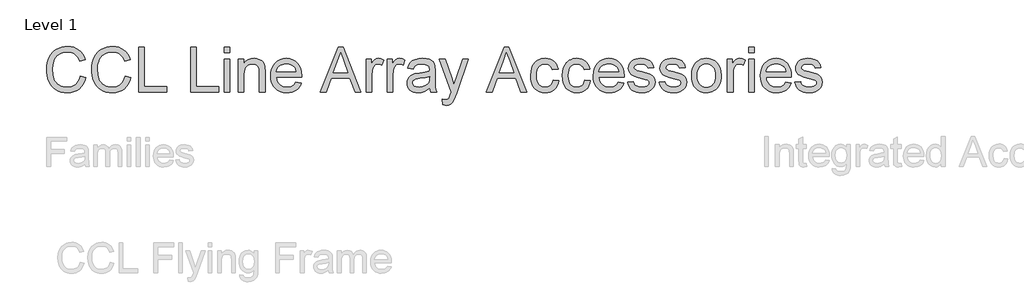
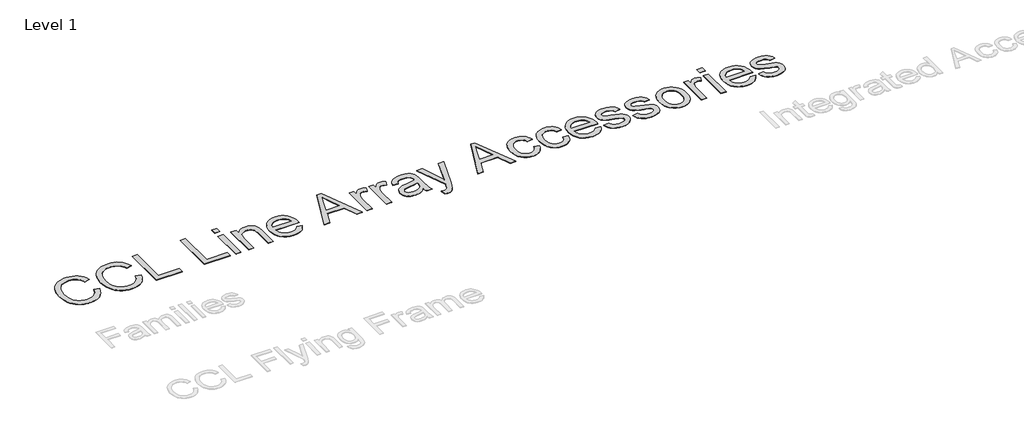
# One storey, part 8 of 31: 1 proxy.
"""IFC4 building model written with IfcOpenShell, lengths in millimetres."""

from ifc_helpers import new_model, si_unit, origin, origin_with_axes, place, context, project, spatial, polyline, outline, extrude, element, save

model = new_model("IFC4")

# Units and contexts
model_context = context("Model", 3, world=origin())
ifc_project = project(units=[si_unit("LENGTHUNIT", "METRE", prefix="MILLI")], contexts=[model_context])

# Site, building, storey
site = spatial("IfcSite", under=ifc_project)
building = spatial("IfcBuilding", under=site)
storey = spatial("IfcBuildingStorey", under=building, Name="Level 1", Elevation=0.0)

# Proxy
placement = place(None, origin())
element("IfcBuildingElementProxy", 1, Name="600mm Arial", ObjectType="600mm Arial", at=placement, inside=storey, context=model_context, shape_type="SweptSolid", body=[
    extrude(outline(polyline([(-20609.8448639, -12457.1212893), (-20534.5026313, -12476.5454586), (-20549.4110491, -12523.3998292), (-20569.2674798, -12564.3404968), (-20594.0719234, -12599.3674613), (-20623.8243797, -12628.4807226), (-20657.8534643, -12651.3675813), (-20695.4877924, -12667.7153374), (-20736.727364, -12677.5239911), (-20781.5721793, -12680.7935424), (-20827.5160419, -12678.3195359), (-20868.9625472, -12670.8975167), (-20905.9116951, -12658.5274846), (-20938.3634856, -12641.2094397), (-20966.7639756, -12619.2008993), (-20991.5592221, -12592.7593809), (-21012.749225, -12561.8848845), (-21030.3339844, -12526.57741), (-21044.1433548, -12488.3636677), (-21054.0071908, -12448.770368), (-21059.9254924, -12407.7975108), (-21061.8982596, -12365.4450961), (-21059.667975, -12320.0024726), (-21052.9771212, -12277.5580874), (-21041.8256982, -12238.1119405), (-21026.213706, -12201.6640318), (-21006.4906326, -12168.8167682), (-20983.0059657, -12140.1725563), (-20955.7597054, -12115.7313963), (-20924.7518518, -12095.493288), (-20891.0354669, -12079.6237785), (-20855.6636131, -12068.2884145), (-20818.6362903, -12061.4871961), (-20779.9534985, -12059.2201233), (-20736.8607213, -12062.1539822), (-20697.3455965, -12070.955559), (-20661.4081241, -12085.6248535), (-20629.0483041, -12106.1618659), (-20600.7995653, -12132.0239702), (-20577.1953368, -12162.6685404), (-20558.2356185, -12198.0955765), (-20543.9204104, -12238.3050786), (-20619.262643, -12256.2577199), (-20631.1268373, -12226.6294237), (-20645.3822646, -12201.3145439), (-20662.0289249, -12180.3130805), (-20681.0668182, -12163.6250335), (-20702.606309, -12150.9101121), (-20726.757762, -12141.8280253), (-20753.5211771, -12136.3787733), (-20782.8965544, -12134.5623559), (-20816.6957127, -12136.5765098), (-20847.6069974, -12142.6189716), (-20875.6304084, -12152.6897412), (-20900.7659457, -12166.7888187), (-20922.6963111, -12184.2816076), (-20941.1042065, -12204.5335114), (-20955.9896317, -12227.5445302), (-20967.3525868, -12253.314664), (-20981.7551669, -12308.460175), (-20986.556027, -12365.2979433), (-20980.8722501, -12434.9012168), (-20973.7675291, -12466.1711864), (-20963.8209197, -12495.0867112), (-20950.8714734, -12521.0729756), (-20934.758242, -12543.5551641), (-20915.4812255, -12562.5332765), (-20893.0404238, -12578.0073129), (-20868.5256873, -12590.0140615), (-20843.0268665, -12598.5903105), (-20816.5439614, -12603.7360599), (-20789.076972, -12605.4513097), (-20756.3216788, -12603.1152591), (-20726.1875449, -12596.1071071), (-20698.6745702, -12584.4268537), (-20673.7827547, -12568.074499), (-20652.1007096, -12547.1236194), (-20634.2170461, -12521.6477912), (-20620.1317642, -12491.6470145), (-20609.8448639, -12457.1212893)])), origin_with_axes(), (0.0, 0.0, 1.0), 5.0),
    extrude(outline(polyline([(-20007.107003, -12457.1212893), (-19931.7647704, -12476.5454586), (-19946.6731882, -12523.3998292), (-19966.5296189, -12564.3404968), (-19991.3340625, -12599.3674613), (-20021.0865188, -12628.4807226), (-20055.1156034, -12651.3675813), (-20092.7499315, -12667.7153374), (-20133.9895031, -12677.5239911), (-20178.8343184, -12680.7935424), (-20224.778181, -12678.3195359), (-20266.2246863, -12670.8975167), (-20303.1738342, -12658.5274846), (-20335.6256247, -12641.2094397), (-20364.0261147, -12619.2008993), (-20388.8213612, -12592.7593809), (-20410.0113641, -12561.8848845), (-20427.5961235, -12526.57741), (-20441.4054939, -12488.3636677), (-20451.2693299, -12448.770368), (-20457.1876315, -12407.7975108), (-20459.1603987, -12365.4450961), (-20456.9301141, -12320.0024726), (-20450.2392603, -12277.5580874), (-20439.0878373, -12238.1119405), (-20423.4758451, -12201.6640318), (-20403.7527717, -12168.8167682), (-20380.2681048, -12140.1725563), (-20353.0218445, -12115.7313963), (-20322.0139909, -12095.493288), (-20288.297606, -12079.6237785), (-20252.9257522, -12068.2884145), (-20215.8984294, -12061.4871961), (-20177.2156376, -12059.2201233), (-20134.1228604, -12062.1539822), (-20094.6077356, -12070.955559), (-20058.6702632, -12085.6248535), (-20026.3104432, -12106.1618659), (-19998.0617044, -12132.0239702), (-19974.4574759, -12162.6685404), (-19955.4977576, -12198.0955765), (-19941.1825495, -12238.3050786), (-20016.5247821, -12256.2577199), (-20028.3889764, -12226.6294237), (-20042.6444037, -12201.3145439), (-20059.291064, -12180.3130805), (-20078.3289573, -12163.6250335), (-20099.8684481, -12150.9101121), (-20124.0199011, -12141.8280253), (-20150.7833162, -12136.3787733), (-20180.1586935, -12134.5623559), (-20213.9578518, -12136.5765098), (-20244.8691365, -12142.6189716), (-20272.8925475, -12152.6897412), (-20298.0280848, -12166.7888187), (-20319.9584502, -12184.2816076), (-20338.3663456, -12204.5335114), (-20353.2517708, -12227.5445302), (-20364.6147259, -12253.314664), (-20379.017306, -12308.460175), (-20383.8181661, -12365.2979433), (-20378.1343892, -12434.9012168), (-20371.0296682, -12466.1711864), (-20361.0830588, -12495.0867112), (-20348.1336125, -12521.0729756), (-20332.0203811, -12543.5551641), (-20312.7433646, -12562.5332765), (-20290.3025629, -12578.0073129), (-20265.7878264, -12590.0140615), (-20240.2890056, -12598.5903105), (-20213.8061005, -12603.7360599), (-20186.3391111, -12605.4513097), (-20153.5838179, -12603.1152591), (-20123.449684, -12596.1071071), (-20095.9367093, -12584.4268537), (-20071.0448938, -12568.074499), (-20049.3628487, -12547.1236194), (-20031.4791852, -12521.6477912), (-20017.3939033, -12491.6470145), (-20007.107003, -12457.1212893)])), origin_with_axes(), (0.0, 0.0, 1.0), 5.0),
    extrude(outline(polyline([(-19828.1692006, -12671.3757633), (-19828.1692006, -12068.6379024), (-19752.8269679, -12068.6379024), (-19752.8269679, -12596.0335307), (-19451.4580375, -12596.0335307), (-19451.4580375, -12671.3757633), (-19828.1692006, -12671.3757633)])), origin_with_axes(), (0.0, 0.0, 1.0), 5.0),
    extrude(outline(polyline([(-19131.2535489, -12671.3757633), (-19131.2535489, -12068.6379024), (-19055.9113163, -12068.6379024), (-19055.9113163, -12596.0335307), (-18754.5423858, -12596.0335307), (-18754.5423858, -12671.3757633), (-19131.2535489, -12671.3757633)])), origin_with_axes(), (0.0, 0.0, 1.0), 5.0),
    extrude(outline(polyline([(-18679.2001532, -12143.980135), (-18679.2001532, -12068.6379024), (-18603.8579206, -12068.6379024), (-18603.8579206, -12143.980135), (-18679.2001532, -12143.980135)])), origin_with_axes(), (0.0, 0.0, 1.0), 5.0),
    extrude(outline(polyline([(-18679.2001532, -12671.3757633), (-18679.2001532, -12228.7401467), (-18603.8579206, -12228.7401467), (-18603.8579206, -12671.3757633), (-18679.2001532, -12671.3757633)])), origin_with_axes(), (0.0, 0.0, 1.0), 5.0),
    extrude(outline(polyline([(-18490.8445717, -12671.3757633), (-18490.8445717, -12228.7401467), (-18415.5023391, -12228.7401467), (-18415.5023391, -12290.5443219), (-18389.3275351, -12259.3847169), (-18357.8920186, -12237.1278562), (-18321.1957896, -12223.7737398), (-18279.2388481, -12219.3223676), (-18242.1011606, -12222.9092171), (-18208.0904702, -12233.6697654), (-18179.7267684, -12250.2612434), (-18159.5300468, -12271.3408817), (-18145.8264425, -12296.8534981), (-18136.9420923, -12326.7439102), (-18132.9689668, -12399.5845452), (-18132.9689668, -12671.3757633), (-18208.3111994, -12671.3757633), (-18208.3111994, -12409.7380883), (-18210.4817032, -12370.779385), (-18216.9932145, -12343.0778708), (-18229.0045616, -12323.2306371), (-18247.6745729, -12307.8347756), (-18271.6052967, -12297.9571441), (-18299.3987814, -12294.6646002), (-18322.276443, -12296.5132072), (-18343.5262267, -12302.0590283), (-18363.1481326, -12311.3020635), (-18381.1421607, -12324.2423126), (-18396.1747387, -12342.3513038), (-18406.9122945, -12367.1005651), (-18413.3548279, -12398.4900963), (-18415.5023391, -12436.5198976), (-18415.5023391, -12671.3757633), (-18490.8445717, -12671.3757633)])), origin_with_axes(), (0.0, 0.0, 1.0), 5.0),
    extrude(outline(polyline([(-17719.4696042, -12539.5268562), (-17645.5988996, -12548.9446353), (-17656.9250665, -12578.5315448), (-17672.2151619, -12604.6051812), (-17691.4691858, -12627.1655445), (-17714.6871383, -12646.2126348), (-17741.6298959, -12661.3417819), (-17772.0583354, -12672.1483155), (-17805.9724568, -12678.6322356), (-17843.3722602, -12680.7935424), (-17890.1208647, -12677.0641386), (-17931.7743036, -12665.8759275), (-17968.3325769, -12647.2289088), (-17999.7956845, -12621.1230827), (-18025.0967687, -12588.2850161), (-18043.1689718, -12549.441276), (-18054.0122936, -12504.5918622), (-18057.6267342, -12453.7367749), (-18053.9755054, -12401.1572408), (-18043.021819, -12354.8133064), (-18024.7656749, -12314.7049719), (-17999.2070733, -12280.8322372), (-17967.8267391, -12253.9216693), (-17932.1053974, -12234.699835), (-17892.0430481, -12223.1667345), (-17847.6396913, -12219.3223676), (-17804.6664758, -12223.1575374), (-17765.8043415, -12234.6630468), (-17731.0532885, -12253.8388958), (-17700.4133168, -12280.6850844), (-17675.4019397, -12314.4842427), (-17657.5366703, -12354.5190008), (-17646.8175087, -12400.7893588), (-17643.2444548, -12453.2953165), (-17643.6859132, -12473.6024027), (-17982.2845016, -12473.6024027), (-17977.9205014, -12503.6675587), (-17969.2430848, -12529.9987125), (-17956.2522519, -12552.5958641), (-17938.9480025, -12571.4590134), (-17918.28683, -12586.330643), (-17895.2252274, -12596.9532357), (-17869.7631948, -12603.3267912), (-17841.9007322, -12605.4513097), (-17801.8015947, -12601.5149724), (-17768.0300276, -12589.7059604), (-17740.5860307, -12569.2885096), (-17719.4696042, -12539.5268562)]), holes=[polyline([(-17982.2845016, -12398.2601701), (-17718.5866874, -12398.2601701), (-17728.7770187, -12358.4553382), (-17737.5418072, -12342.8019593), (-17748.753011, -12329.9812718), (-17769.2992204, -12314.530228), (-17792.6781212, -12303.4937681), (-17818.8897134, -12296.8718922), (-17847.9339969, -12294.6646002), (-17874.4260991, -12296.4258353), (-17898.7201063, -12301.7095404), (-17920.8160187, -12310.5157157), (-17940.7138361, -12322.8443611), (-17957.4110802, -12338.1252594), (-17969.9052724, -12355.7881937), (-17978.1964129, -12375.8331639), (-17982.2845016, -12398.2601701)])]), origin_with_axes(), (0.0, 0.0, 1.0), 5.0),
    extrude(outline(polyline([(-17393.0846981, -12671.3757633), (-17152.4898732, -12068.6379024), (-17088.3312533, -12068.6379024), (-16847.8835812, -12671.3757633), (-16927.493245, -12671.3757633), (-16996.3607545, -12483.0201818), (-17244.7546776, -12483.0201818), (-17313.6221871, -12671.3757633), (-17393.0846981, -12671.3757633)]), holes=[polyline([(-17217.0899516, -12407.6779491), (-17023.8783277, -12407.6779491), (-17078.324863, -12259.4950815), (-17120.557716, -12143.980135), (-17158.0816796, -12246.5456353), (-17217.0899516, -12407.6779491)])]), origin_with_axes(), (0.0, 0.0, 1.0), 5.0),
    extrude(outline(polyline([(-16776.8087798, -12671.3757633), (-16776.8087798, -12228.7401467), (-16710.8843262, -12228.7401467), (-16710.8843262, -12294.2231418), (-16686.5305381, -12256.2577199), (-16664.0897364, -12233.8904946), (-16641.5753583, -12222.9643994), (-16617.0008411, -12219.3223676), (-16579.4768775, -12225.1349031), (-16541.3643028, -12242.5725097), (-16566.5274313, -12310.115644), (-16593.014935, -12298.5273612), (-16619.5024386, -12294.6646002), (-16641.9984226, -12298.3802084), (-16662.1031737, -12309.5270328), (-16678.3451637, -12327.258945), (-16689.2528649, -12350.7298163), (-16698.4131266, -12392.8155165), (-16701.4665471, -12438.7271895), (-16701.4665471, -12671.3757633), (-16776.8087798, -12671.3757633)])), origin_with_axes(), (0.0, 0.0, 1.0), 5.0),
    extrude(outline(polyline([(-16494.2754075, -12671.3757633), (-16494.2754075, -12228.7401467), (-16428.3509539, -12228.7401467), (-16428.3509539, -12294.2231418), (-16403.9971658, -12256.2577199), (-16381.5563641, -12233.8904946), (-16359.041986, -12222.9643994), (-16334.4674688, -12219.3223676), (-16296.9435052, -12225.1349031), (-16258.8309305, -12242.5725097), (-16283.994059, -12310.115644), (-16310.4815627, -12298.5273612), (-16336.9690663, -12294.6646002), (-16359.4650503, -12298.3802084), (-16379.5698014, -12309.5270328), (-16395.8117915, -12327.258945), (-16406.7194926, -12350.7298163), (-16415.8797543, -12392.8155165), (-16418.9331748, -12438.7271895), (-16418.9331748, -12671.3757633), (-16494.2754075, -12671.3757633)])), origin_with_axes(), (0.0, 0.0, 1.0), 5.0),
    extrude(outline(polyline([(-15929.2086629, -12614.8690888), (-15965.2059161, -12645.7343882), (-16002.2700271, -12665.9311098), (-16041.2471245, -12677.0779342), (-16082.9833369, -12680.7935424), (-16116.5295763, -12678.5586592), (-16145.9463403, -12671.8540099), (-16171.233629, -12660.6795943), (-16192.3914422, -12645.0354124), (-16209.0978833, -12625.9147457), (-16221.0310555, -12604.3108756), (-16228.1909589, -12580.2238019), (-16230.5775933, -12553.6535248), (-16226.9723498, -12522.4203434), (-16216.1566191, -12494.0566416), (-16199.4731706, -12469.7764299), (-16178.2647736, -12450.793719), (-16153.3407684, -12436.4463212), (-16125.5104955, -12426.0720489), (-16060.3218059, -12414.7412834), (-15983.2873162, -12402.8219068), (-15929.6501213, -12388.842391), (-15929.2086629, -12372.066972), (-15934.395799, -12338.4425576), (-15940.8797192, -12325.9897521), (-15949.9572074, -12316.4432143), (-15965.6473745, -12306.9150707), (-15984.7588441, -12300.1092538), (-16033.2456911, -12294.6646002), (-16078.1272945, -12298.2882379), (-16109.4708405, -12309.1591508), (-16130.8447844, -12329.2639019), (-16145.8175816, -12360.5890538), (-16221.1598142, -12351.1712747), (-16208.0816093, -12309.9684912), (-16188.5654695, -12277.5948756), (-16160.7903788, -12252.8364174), (-16122.9353215, -12234.4791058), (-16076.6373724, -12223.1115522), (-16023.5336064, -12219.3223676), (-15972.6003442, -12222.6700938), (-15932.2252952, -12232.7132722), (-15901.7830601, -12247.8148281), (-15880.6482395, -12266.3376866), (-15866.6319355, -12289.2383408), (-15857.5452502, -12317.4732839), (-15853.8664303, -12383.3977375), (-15853.8664303, -12477.1340698), (-15850.0404575, -12608.0264837), (-15844.3750748, -12640.3817052), (-15835.0308721, -12671.3757633), (-15910.3731047, -12671.3757633), (-15922.4396342, -12645.1825652), (-15929.2086629, -12614.8690888)]), holes=[polyline([(-15929.2086629, -12464.1846236), (-15979.8292254, -12476.7293996), (-16050.7568741, -12487.2876129), (-16115.5776816, -12499.5012951), (-16132.4450711, -12507.8522164), (-16144.9346648, -12519.3669229), (-16152.6601867, -12533.1624977), (-16155.2353607, -12548.3560241), (-16149.6251603, -12570.7600376), (-16132.794559, -12589.1173492), (-16105.1114389, -12601.3678196), (-16066.9436819, -12605.4513097), (-16026.4766624, -12600.9447553), (-15990.7185325, -12587.425092), (-15961.7294312, -12567.5042819), (-15941.5694979, -12543.7942874), (-15932.6299654, -12519.3669229), (-15929.6501213, -12485.5217793), (-15929.2086629, -12464.1846236)])]), origin_with_axes(), (0.0, 0.0, 1.0), 5.0),
    extrude(outline(polyline([(-15750.2708604, -12840.8957867), (-15759.6886395, -12768.3494572), (-15721.428912, -12774.9713331), (-15701.3057669, -12772.8927999), (-15685.6707821, -12766.6572), (-15673.493888, -12756.7059921), (-15663.7450151, -12743.4806343), (-15643.1436234, -12688.0040295), (-15637.2575115, -12669.7570825), (-15797.3597558, -12228.7401467), (-15718.0443976, -12228.7401467), (-15632.9900804, -12474.6324723), (-15603.4123679, -12572.9305414), (-15573.8346555, -12485.9632377), (-15486.5730463, -12228.7401467), (-15407.8462993, -12228.7401467), (-15561.9152789, -12681.9707647), (-15601.94084, -12780.2688339), (-15622.4318671, -12811.649168), (-15645.645221, -12833.390994), (-15672.574183, -12846.0829228), (-15704.2120346, -12850.3135657), (-15726.1010133, -12847.959121), (-15750.2708604, -12840.8957867)])), origin_with_axes(), (0.0, 0.0, 1.0), 5.0),
    extrude(outline(polyline([(-15170.488836, -12671.3757633), (-14929.8940112, -12068.6379024), (-14865.7353912, -12068.6379024), (-14625.2877192, -12671.3757633), (-14704.8973829, -12671.3757633), (-14773.7648924, -12483.0201818), (-15022.1588156, -12483.0201818), (-15091.0263251, -12671.3757633), (-15170.488836, -12671.3757633)]), holes=[polyline([(-14994.4940895, -12407.6779491), (-14801.2824657, -12407.6779491), (-14855.7290009, -12259.4950815), (-14897.961854, -12143.980135), (-14935.4858175, -12246.5456353), (-14994.4940895, -12407.6779491)])]), origin_with_axes(), (0.0, 0.0, 1.0), 5.0),
    extrude(outline(polyline([(-14271.6795454, -12511.273519), (-14196.3373128, -12520.6912981), (-14204.5318842, -12556.2424944), (-14217.3433747, -12587.7010035), (-14234.7717842, -12615.0668254), (-14256.8171128, -12638.3399601), (-14282.5504584, -12656.9134023), (-14311.0429189, -12670.1801468), (-14342.2944944, -12678.1401935), (-14376.3051848, -12680.7935424), (-14418.5610305, -12677.0917298), (-14456.4482775, -12665.9862921), (-14489.9669258, -12647.4772292), (-14519.1169754, -12621.5645411), (-14542.7120068, -12588.7356716), (-14559.5656007, -12549.4780642), (-14569.6777571, -12503.7917189), (-14573.0484758, -12451.6766358), (-14567.2911226, -12384.6301421), (-14560.0944311, -12354.45922), (-14550.019063, -12326.523181), (-14536.9960403, -12301.3830452), (-14520.9563853, -12279.5998325), (-14501.900098, -12261.1735431), (-14479.8271783, -12246.1041769), (-14455.7355061, -12234.3871353), (-14430.6229614, -12226.0178199), (-14404.4895442, -12220.9962307), (-14377.3352544, -12219.3223676), (-14343.9085766, -12221.6216301), (-14313.6732751, -12228.5194175), (-14286.62935, -12240.0157298), (-14262.7768011, -12256.1105671), (-14242.5202988, -12276.4360474), (-14226.2645131, -12300.6242885), (-14214.0094441, -12328.6752907), (-14205.7550919, -12360.5890538), (-14281.0973245, -12370.0068328), (-14294.7641406, -12337.1365766), (-14316.046114, -12313.5737348), (-14343.7660224, -12299.3918839), (-14376.7466432, -12294.6646002), (-14402.3466316, -12296.9914538), (-14425.4358253, -12303.9720147), (-14446.0142244, -12315.6062828), (-14464.0818289, -12331.8942581), (-14478.7925102, -12353.2130198), (-14489.3001396, -12379.9396467), (-14495.6047173, -12412.074139), (-14497.7062432, -12449.6164966), (-14495.6507026, -12487.7244728), (-14489.4840806, -12520.2314456), (-14479.2063774, -12547.137415), (-14464.8175929, -12568.442381), (-14447.1086733, -12584.6337873), (-14426.8705651, -12596.1990776), (-14404.1032681, -12603.1382517), (-14378.8067824, -12605.4513097), (-14339.7928968, -12599.6755624), (-14322.9209088, -12592.4558783), (-14307.8055573, -12582.3483205), (-14294.8699067, -12569.2425244), (-14284.5370211, -12553.0281254), (-14276.8069007, -12533.7051236), (-14271.6795454, -12511.273519)])), origin_with_axes(), (0.0, 0.0, 1.0), 5.0),
    extrude(outline(polyline([(-13847.879487, -12511.273519), (-13772.5372543, -12520.6912981), (-13780.7318258, -12556.2424944), (-13793.5433163, -12587.7010035), (-13810.9717258, -12615.0668254), (-13833.0170544, -12638.3399601), (-13858.7503999, -12656.9134023), (-13887.2428604, -12670.1801468), (-13918.4944359, -12678.1401935), (-13952.5051264, -12680.7935424), (-13994.7609721, -12677.0917298), (-14032.648219, -12665.9862921), (-14066.1668673, -12647.4772292), (-14095.3169169, -12621.5645411), (-14118.9119484, -12588.7356716), (-14135.7655423, -12549.4780642), (-14145.8776986, -12503.7917189), (-14149.2484174, -12451.6766358), (-14143.4910642, -12384.6301421), (-14136.2943727, -12354.45922), (-14126.2190045, -12326.523181), (-14113.1959819, -12301.3830452), (-14097.1563269, -12279.5998325), (-14078.1000395, -12261.1735431), (-14056.0271198, -12246.1041769), (-14031.9354477, -12234.3871353), (-14006.822903, -12226.0178199), (-13980.6894857, -12220.9962307), (-13953.535196, -12219.3223676), (-13920.1085182, -12221.6216301), (-13889.8732167, -12228.5194175), (-13862.8292915, -12240.0157298), (-13838.9767427, -12256.1105671), (-13818.7202403, -12276.4360474), (-13802.4644547, -12300.6242885), (-13790.2093857, -12328.6752907), (-13781.9550334, -12360.5890538), (-13857.297266, -12370.0068328), (-13870.9640822, -12337.1365766), (-13892.2460556, -12313.5737348), (-13919.9659639, -12299.3918839), (-13952.9465848, -12294.6646002), (-13978.5465731, -12296.9914538), (-14001.6357668, -12303.9720147), (-14022.2141659, -12315.6062828), (-14040.2817704, -12331.8942581), (-14054.9924517, -12353.2130198), (-14065.5000812, -12379.9396467), (-14071.8046589, -12412.074139), (-14073.9061848, -12449.6164966), (-14071.8506441, -12487.7244728), (-14065.6840222, -12520.2314456), (-14055.406319, -12547.137415), (-14041.0175344, -12568.442381), (-14023.3086149, -12584.6337873), (-14003.0705066, -12596.1990776), (-13980.3032096, -12603.1382517), (-13955.006724, -12605.4513097), (-13915.9928384, -12599.6755624), (-13899.1208504, -12592.4558783), (-13884.0054989, -12582.3483205), (-13871.0698482, -12569.2425244), (-13860.7369627, -12553.0281254), (-13853.0068423, -12533.7051236), (-13847.879487, -12511.273519)])), origin_with_axes(), (0.0, 0.0, 1.0), 5.0),
    extrude(outline(polyline([(-13396.7090081, -12539.5268562), (-13322.8383034, -12548.9446353), (-13334.1644704, -12578.5315448), (-13349.4545658, -12604.6051812), (-13368.7085897, -12627.1655445), (-13391.9265421, -12646.2126348), (-13418.8692998, -12661.3417819), (-13449.2977393, -12672.1483155), (-13483.2118607, -12678.6322356), (-13520.611664, -12680.7935424), (-13567.3602686, -12677.0641386), (-13609.0137075, -12665.8759275), (-13645.5719808, -12647.2289088), (-13677.0350884, -12621.1230827), (-13702.3361726, -12588.2850161), (-13720.4083756, -12549.441276), (-13731.2516974, -12504.5918622), (-13734.866138, -12453.7367749), (-13731.2149092, -12401.1572408), (-13720.2612228, -12354.8133064), (-13702.0050788, -12314.7049719), (-13676.4464772, -12280.8322372), (-13645.066143, -12253.9216693), (-13609.3448013, -12234.699835), (-13569.282452, -12223.1667345), (-13524.8790952, -12219.3223676), (-13481.9058796, -12223.1575374), (-13443.0437454, -12234.6630468), (-13408.2926924, -12253.8388958), (-13377.6527207, -12280.6850844), (-13352.6413436, -12314.4842427), (-13334.7760742, -12354.5190008), (-13324.0569125, -12400.7893588), (-13320.4838587, -12453.2953165), (-13320.9253171, -12473.6024027), (-13659.5239054, -12473.6024027), (-13655.1599053, -12503.6675587), (-13646.4824887, -12529.9987125), (-13633.4916557, -12552.5958641), (-13616.1874064, -12571.4590134), (-13595.5262338, -12586.330643), (-13572.4646313, -12596.9532357), (-13547.0025987, -12603.3267912), (-13519.1401361, -12605.4513097), (-13479.0409986, -12601.5149724), (-13445.2694314, -12589.7059604), (-13417.8254346, -12569.2885096), (-13396.7090081, -12539.5268562)]), holes=[polyline([(-13659.5239054, -12398.2601701), (-13395.8260913, -12398.2601701), (-13406.0164225, -12358.4553382), (-13414.7812111, -12342.8019593), (-13425.9924149, -12329.9812718), (-13446.5386243, -12314.530228), (-13469.9175251, -12303.4937681), (-13496.1291173, -12296.8718922), (-13525.1734008, -12294.6646002), (-13551.665503, -12296.4258353), (-13575.9595102, -12301.7095404), (-13598.0554226, -12310.5157157), (-13617.95324, -12322.8443611), (-13634.650484, -12338.1252594), (-13647.1446763, -12355.7881937), (-13655.4358168, -12375.8331639), (-13659.5239054, -12398.2601701)])]), origin_with_axes(), (0.0, 0.0, 1.0), 5.0),
    extrude(outline(polyline([(-13273.3949633, -12539.5268562), (-13198.0527307, -12530.1090771), (-13193.500191, -12547.2891663), (-13186.1701422, -12562.3355399), (-13176.0625844, -12575.2481979), (-13163.1775175, -12586.0271404), (-13147.4781534, -12594.5252145), (-13128.9277038, -12600.5952674), (-13083.2735482, -12605.4513097), (-13038.1712156, -12600.9999376), (-13020.6416385, -12595.4357224), (-13006.4597876, -12587.6458212), (-12987.6978058, -12568.2952282), (-12983.0073104, -12557.4611035), (-12981.4438119, -12545.8544265), (-12983.0165074, -12535.6824894), (-12987.734594, -12526.6509864), (-13006.6069404, -12512.009283), (-13034.8234894, -12502.4443511), (-13084.156465, -12490.5249745), (-13152.9136099, -12470.6409526), (-13197.6112723, -12453.6631985), (-13226.324462, -12435.1403401), (-13247.1281888, -12410.6210051), (-13259.7649354, -12381.6686921), (-13263.9771842, -12349.8468995), (-13260.5926699, -12320.6554632), (-13250.4391268, -12293.708107), (-13234.43626, -12270.0716888), (-13213.5037745, -12250.8130664), (-13192.7000476, -12238.6913547), (-13165.6055387, -12228.5194175), (-13134.2803868, -12221.6216301), (-13100.7847312, -12219.3223676), (-13051.7460612, -12223.0195817), (-13009.108538, -12234.1112238), (-12974.821936, -12251.5120422), (-12950.8360299, -12274.1367849), (-12934.9435277, -12303.659315), (-12924.9371375, -12341.7534956), (-13000.2793701, -12351.1712747), (-13009.7891196, -12327.4612801), (-13028.6062837, -12309.6006092), (-13056.9148032, -12298.3986025), (-13094.8986192, -12294.6646002), (-13138.1615419, -12298.2330556), (-13167.0034903, -12308.9384216), (-13183.2270863, -12324.3894654), (-13188.6349516, -12342.194954), (-13186.3908714, -12353.7832368), (-13179.6586309, -12364.1207209), (-13168.1439245, -12373.354559), (-13151.5524465, -12380.7489871), (-13086.6580625, -12396.7886421), (-12976.0727348, -12432.2524664), (-12946.8629044, -12449.2118264), (-12924.7164083, -12472.4251803), (-12910.7552865, -12501.9661045), (-12906.1015793, -12537.9081754), (-12911.5646269, -12575.0642569), (-12927.9537698, -12610.0130465), (-12954.6436086, -12640.0138232), (-12991.0087438, -12662.3258662), (-13034.933854, -12676.1766233), (-13084.3036178, -12680.7935424), (-13124.8534107, -12678.5678563), (-13160.2712498, -12671.8907981), (-13190.557135, -12660.7623677), (-13215.7110664, -12645.1825652), (-13236.2572759, -12625.224967), (-13252.7199952, -12600.9631494), (-13265.0992243, -12572.3971125), (-13273.3949633, -12539.5268562)])), origin_with_axes(), (0.0, 0.0, 1.0), 5.0),
    extrude(outline(polyline([(-12849.5949048, -12539.5268562), (-12774.2526722, -12530.1090771), (-12769.7001325, -12547.2891663), (-12762.3700838, -12562.3355399), (-12752.262526, -12575.2481979), (-12739.3774591, -12586.0271404), (-12723.6780949, -12594.5252145), (-12705.1276453, -12600.5952674), (-12659.4734897, -12605.4513097), (-12614.3711571, -12600.9999376), (-12596.8415801, -12595.4357224), (-12582.6597291, -12587.6458212), (-12563.8977474, -12568.2952282), (-12559.207252, -12557.4611035), (-12557.6437535, -12545.8544265), (-12559.216449, -12535.6824894), (-12563.9345356, -12526.6509864), (-12582.8068819, -12512.009283), (-12611.023431, -12502.4443511), (-12660.3564065, -12490.5249745), (-12729.1135514, -12470.6409526), (-12773.8112138, -12453.6631985), (-12802.5244036, -12435.1403401), (-12823.3281304, -12410.6210051), (-12835.9648769, -12381.6686921), (-12840.1771258, -12349.8468995), (-12836.7926114, -12320.6554632), (-12826.6390683, -12293.708107), (-12810.6362016, -12270.0716888), (-12789.703716, -12250.8130664), (-12768.8999892, -12238.6913547), (-12741.8054803, -12228.5194175), (-12710.4803284, -12221.6216301), (-12676.9846727, -12219.3223676), (-12627.9460028, -12223.0195817), (-12585.3084795, -12234.1112238), (-12551.0218776, -12251.5120422), (-12527.0359715, -12274.1367849), (-12511.1434693, -12303.659315), (-12501.137079, -12341.7534956), (-12576.4793116, -12351.1712747), (-12585.9890612, -12327.4612801), (-12604.8062253, -12309.6006092), (-12633.1147448, -12298.3986025), (-12671.0985608, -12294.6646002), (-12714.3614834, -12298.2330556), (-12743.2034318, -12308.9384216), (-12759.4270278, -12324.3894654), (-12764.8348932, -12342.194954), (-12762.590813, -12353.7832368), (-12755.8585725, -12364.1207209), (-12744.343866, -12373.354559), (-12727.752388, -12380.7489871), (-12662.8580041, -12396.7886421), (-12552.2726763, -12432.2524664), (-12523.0628459, -12449.2118264), (-12500.9163498, -12472.4251803), (-12486.9552281, -12501.9661045), (-12482.3015209, -12537.9081754), (-12487.7645685, -12575.0642569), (-12504.1537114, -12610.0130465), (-12530.8435501, -12640.0138232), (-12567.2086853, -12662.3258662), (-12611.1337956, -12676.1766233), (-12660.5035593, -12680.7935424), (-12701.0533522, -12678.5678563), (-12736.4711913, -12671.8907981), (-12766.7570766, -12660.7623677), (-12791.911008, -12645.1825652), (-12812.4572174, -12625.224967), (-12828.9199367, -12600.9631494), (-12841.2991659, -12572.3971125), (-12849.5949048, -12539.5268562)])), origin_with_axes(), (0.0, 0.0, 1.0), 5.0),
    extrude(outline(polyline([(-12416.3770673, -12450.057955), (-12412.3027742, -12392.7327431), (-12400.0798949, -12343.3353882), (-12379.7084295, -12301.8658903), (-12351.1883778, -12268.3242494), (-12322.4751881, -12246.8859261), (-12290.7821542, -12231.572838), (-12256.1092761, -12222.3849852), (-12218.4565539, -12219.3223676), (-12176.890487, -12223.0517713), (-12139.3067427, -12234.2399825), (-12105.7053209, -12252.8870011), (-12076.0862218, -12278.9928272), (-12051.9117762, -12311.674544), (-12034.644315, -12350.0492346), (-12024.2838383, -12394.1168991), (-12020.8303461, -12443.8775375), (-12022.3570564, -12484.2066012), (-12026.9371872, -12519.9923223), (-12034.5707386, -12551.2347007), (-12045.2577106, -12577.9337365), (-12058.8647459, -12600.9953391), (-12075.2584873, -12621.3254178), (-12094.4389348, -12638.9239728), (-12116.4060885, -12653.7910039), (-12140.3046226, -12665.6046145), (-12165.2792115, -12674.0429077), (-12191.3298553, -12679.1058837), (-12218.4565539, -12680.7935424), (-12260.6296261, -12677.0779342), (-12298.5628584, -12665.9311098), (-12332.2562506, -12647.353069), (-12361.7098028, -12621.3438119), (-12385.6267311, -12588.344797), (-12402.7102512, -12548.7974825), (-12412.9603633, -12502.7018685), (-12416.3770673, -12450.057955)]), holes=[polyline([(-12341.0348347, -12449.9108022), (-12338.8551339, -12486.4552799), (-12332.3160314, -12518.09773), (-12321.4175273, -12544.8381525), (-12306.1596216, -12566.6765475), (-12287.5999749, -12583.640506), (-12266.7962481, -12595.7576192), (-12243.7484411, -12603.0278871), (-12218.4565539, -12605.4513097), (-12193.2934254, -12603.0140915), (-12170.337589, -12595.7024369), (-12149.5890444, -12583.5163458), (-12131.0477919, -12566.4558183), (-12115.7898861, -12544.4012926), (-12104.891382, -12517.2332073), (-12098.3522795, -12484.9515622), (-12096.1725787, -12447.5563574), (-12098.3660751, -12412.170708), (-12104.9465643, -12381.3559924), (-12115.9140463, -12355.1122106), (-12131.2685211, -12333.4393625), (-12149.8787515, -12316.475404), (-12170.6135004, -12304.3582908), (-12193.4727679, -12297.0880229), (-12218.4565539, -12294.6646002), (-12243.7484411, -12297.0788258), (-12266.7962481, -12304.3215026), (-12287.5999749, -12316.3926306), (-12306.1596216, -12333.2922097), (-12321.4175273, -12355.0662253), (-12332.3160314, -12381.7606626), (-12338.8551339, -12413.3755215), (-12341.0348347, -12449.9108022)])]), origin_with_axes(), (0.0, 0.0, 1.0), 5.0),
    extrude(outline(polyline([(-11936.0703344, -12671.3757633), (-11936.0703344, -12228.7401467), (-11870.1458809, -12228.7401467), (-11870.1458809, -12294.2231418), (-11845.7920928, -12256.2577199), (-11823.3512911, -12233.8904946), (-11800.836913, -12222.9643994), (-11776.2623957, -12219.3223676), (-11738.7384322, -12225.1349031), (-11700.6258575, -12242.5725097), (-11725.788986, -12310.115644), (-11752.2764896, -12298.5273612), (-11778.7639933, -12294.6646002), (-11801.2599773, -12298.3802084), (-11821.3647283, -12309.5270328), (-11837.6067184, -12327.258945), (-11848.5144196, -12350.7298163), (-11857.6746812, -12392.8155165), (-11860.7281018, -12438.7271895), (-11860.7281018, -12671.3757633), (-11936.0703344, -12671.3757633)])), origin_with_axes(), (0.0, 0.0, 1.0), 5.0),
    extrude(outline(polyline([(-11653.5369621, -12671.3757633), (-11653.5369621, -12228.7401467), (-11578.1947295, -12228.7401467), (-11578.1947295, -12671.3757633), (-11653.5369621, -12671.3757633)])), origin_with_axes(), (0.0, 0.0, 1.0), 5.0),
    extrude(outline(polyline([(-11653.5369621, -12143.980135), (-11653.5369621, -12068.6379024), (-11578.1947295, -12068.6379024), (-11578.1947295, -12143.980135), (-11653.5369621, -12143.980135)])), origin_with_axes(), (0.0, 0.0, 1.0), 5.0),
    extrude(outline(polyline([(-11155.2775879, -12539.5268562), (-11081.4068832, -12548.9446353), (-11092.7330502, -12578.5315448), (-11108.0231456, -12604.6051812), (-11127.2771695, -12627.1655445), (-11150.4951219, -12646.2126348), (-11177.4378795, -12661.3417819), (-11207.8663191, -12672.1483155), (-11241.7804405, -12678.6322356), (-11279.1802438, -12680.7935424), (-11325.9288484, -12677.0641386), (-11367.5822873, -12665.8759275), (-11404.1405605, -12647.2289088), (-11435.6036682, -12621.1230827), (-11460.9047524, -12588.2850161), (-11478.9769554, -12549.441276), (-11489.8202772, -12504.5918622), (-11493.4347178, -12453.7367749), (-11489.783489, -12401.1572408), (-11478.8298026, -12354.8133064), (-11460.5736586, -12314.7049719), (-11435.015057, -12280.8322372), (-11403.6347228, -12253.9216693), (-11367.9133811, -12234.699835), (-11327.8510318, -12223.1667345), (-11283.447675, -12219.3223676), (-11240.4744594, -12223.1575374), (-11201.6123252, -12234.6630468), (-11166.8612722, -12253.8388958), (-11136.2213005, -12280.6850844), (-11111.2099234, -12314.4842427), (-11093.344654, -12354.5190008), (-11082.6254923, -12400.7893588), (-11079.0524385, -12453.2953165), (-11079.4938969, -12473.6024027), (-11418.0924852, -12473.6024027), (-11413.728485, -12503.6675587), (-11405.0510685, -12529.9987125), (-11392.0602355, -12552.5958641), (-11374.7559862, -12571.4590134), (-11354.0948136, -12586.330643), (-11331.0332111, -12596.9532357), (-11305.5711785, -12603.3267912), (-11277.7087159, -12605.4513097), (-11237.6095784, -12601.5149724), (-11203.8380112, -12589.7059604), (-11176.3940144, -12569.2885096), (-11155.2775879, -12539.5268562)]), holes=[polyline([(-11418.0924852, -12398.2601701), (-11154.3946711, -12398.2601701), (-11164.5850023, -12358.4553382), (-11173.3497909, -12342.8019593), (-11184.5609947, -12329.9812718), (-11205.1072041, -12314.530228), (-11228.4861049, -12303.4937681), (-11254.6976971, -12296.8718922), (-11283.7419806, -12294.6646002), (-11310.2340828, -12296.4258353), (-11334.52809, -12301.7095404), (-11356.6240023, -12310.5157157), (-11376.5218198, -12322.8443611), (-11393.2190638, -12338.1252594), (-11405.7132561, -12355.7881937), (-11414.0043965, -12375.8331639), (-11418.0924852, -12398.2601701)])]), origin_with_axes(), (0.0, 0.0, 1.0), 5.0),
    extrude(outline(polyline([(-11031.9635431, -12539.5268562), (-10956.6213105, -12530.1090771), (-10952.0687708, -12547.2891663), (-10944.738722, -12562.3355399), (-10934.6311642, -12575.2481979), (-10921.7460973, -12586.0271404), (-10906.0467332, -12594.5252145), (-10887.4962836, -12600.5952674), (-10841.842128, -12605.4513097), (-10796.7397954, -12600.9999376), (-10779.2102183, -12595.4357224), (-10765.0283674, -12587.6458212), (-10746.2663856, -12568.2952282), (-10741.5758902, -12557.4611035), (-10740.0123917, -12545.8544265), (-10741.5850872, -12535.6824894), (-10746.3031738, -12526.6509864), (-10765.1755202, -12512.009283), (-10793.3920692, -12502.4443511), (-10842.7250448, -12490.5249745), (-10911.4821897, -12470.6409526), (-10956.1798521, -12453.6631985), (-10984.8930418, -12435.1403401), (-11005.6967686, -12410.6210051), (-11018.3335152, -12381.6686921), (-11022.545764, -12349.8468995), (-11019.1612496, -12320.6554632), (-11009.0077066, -12293.708107), (-10993.0048398, -12270.0716888), (-10972.0723543, -12250.8130664), (-10951.2686274, -12238.6913547), (-10924.1741185, -12228.5194175), (-10892.8489666, -12221.6216301), (-10859.3533109, -12219.3223676), (-10810.314641, -12223.0195817), (-10767.6771177, -12234.1112238), (-10733.3905158, -12251.5120422), (-10709.4046097, -12274.1367849), (-10693.5121075, -12303.659315), (-10683.5057172, -12341.7534956), (-10758.8479499, -12351.1712747), (-10768.3576994, -12327.4612801), (-10787.1748635, -12309.6006092), (-10815.483383, -12298.3986025), (-10853.467199, -12294.6646002), (-10896.7301216, -12298.2330556), (-10925.5720701, -12308.9384216), (-10941.7956661, -12324.3894654), (-10947.2035314, -12342.194954), (-10944.9594512, -12353.7832368), (-10938.2272107, -12364.1207209), (-10926.7125043, -12373.354559), (-10910.1210263, -12380.7489871), (-10845.2266423, -12396.7886421), (-10734.6413146, -12432.2524664), (-10705.4314842, -12449.2118264), (-10683.284988, -12472.4251803), (-10669.3238663, -12501.9661045), (-10664.6701591, -12537.9081754), (-10670.1332067, -12575.0642569), (-10686.5223496, -12610.0130465), (-10713.2121884, -12640.0138232), (-10749.5773236, -12662.3258662), (-10793.5024338, -12676.1766233), (-10842.8721976, -12680.7935424), (-10883.4219905, -12678.5678563), (-10918.8398296, -12671.8907981), (-10949.1257148, -12660.7623677), (-10974.2796462, -12645.1825652), (-10994.8258557, -12625.224967), (-11011.2885749, -12600.9631494), (-11023.6678041, -12572.3971125), (-11031.9635431, -12539.5268562)])), origin_with_axes(), (0.0, 0.0, 1.0), 5.0),
])

save(model, "model.ifc")
